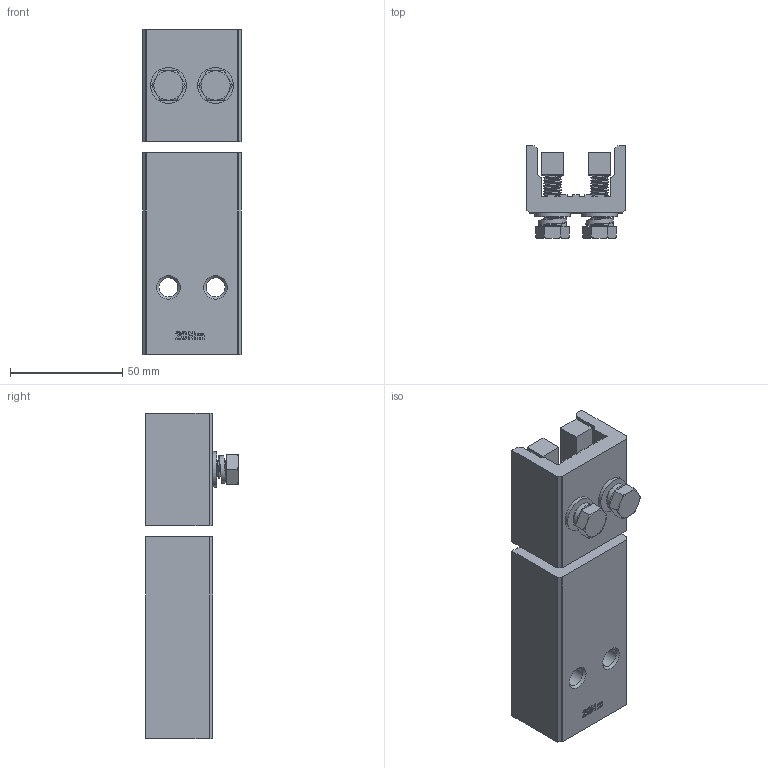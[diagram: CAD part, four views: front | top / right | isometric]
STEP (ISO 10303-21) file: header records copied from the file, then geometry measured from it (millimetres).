
FILE_DESCRIPTION (( 'STEP AP214' ), '1' );
FILE_NAME ('54827.STEP', '2021-08-16T02:23:49', ( '' ), ( '' ), 'SwSTEP 2.0', 'SolidWorks 2017', '' );
FILE_SCHEMA (( 'AUTOMOTIVE_DESIGN' ));
Length unit declared in the file: millimetre
Products named in the file (2): 54827
Bounding box: 44 x 41.34 x 145 mm (x, y, z)
Surface area: 38655 mm2 (no closed solid volume)
Topology: 0 solids, 13 shells, 362 faces, 1023 edges, 684 vertices
Faces by surface type: plane 248, bspline 69, cylinder 39, cone 6
Full cylindrical faces by diameter (mm): 8.5 x4, 9 x2, 16 x2
Entity records: 26539 total; most frequent: CARTESIAN_POINT 14294, ORIENTED_EDGE 1826, DIRECTION 1513, EDGE_CURVE 999, VECTOR 719, LINE 719, VERTEX_POINT 674, AXIS2_PLACEMENT_3D 397
